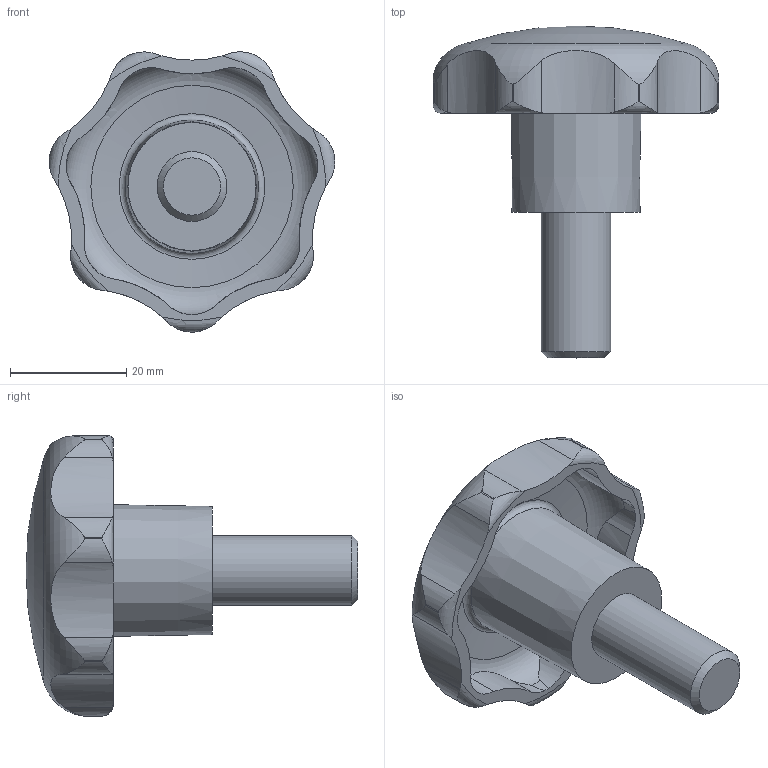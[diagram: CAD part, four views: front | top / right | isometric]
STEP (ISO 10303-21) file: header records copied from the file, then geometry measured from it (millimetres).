
FILE_DESCRIPTION( ( 'STEP AP203' ), '1' );
FILE_NAME( 'C:/Temp/Ganter_Step_05_03_2020/data/2_2/gn_6336_4/gn_6336_4_st/Star knob GN 6336.4-ST-50-M12-25.stp', '2020-03-05T12:07:40', ( 'License CC BY-ND 4.0' ), ( 'CADENAS' ), ' ', 'PARTsolutions', ' ' );
FILE_SCHEMA( ( 'CONFIG_CONTROL_DESIGN' ) );
Length unit declared in the file: millimetre
Products named in the file (1): _Star knob GN 6336.4-ST-50-M12-25
Bounding box: 49.04 x 57 x 48.12 mm (x, y, z)
Volume: 23967.4 mm3; surface area: 8384.6 mm2
Topology: 1 solids, 1 shells, 74 faces, 209 edges, 138 vertices
Faces by surface type: cylinder 50, torus 10, cone 10, plane 3, sphere 1
Full cylindrical faces by diameter (mm): 12 x1
Entity records: 3234 total; most frequent: CARTESIAN_POINT 1425, ORIENTED_EDGE 394, DIRECTION 334, EDGE_CURVE 197, AXIS2_PLACEMENT_3D 146, VERTEX_POINT 135, B_SPLINE_CURVE_WITH_KNOTS 84, EDGE_LOOP 83
